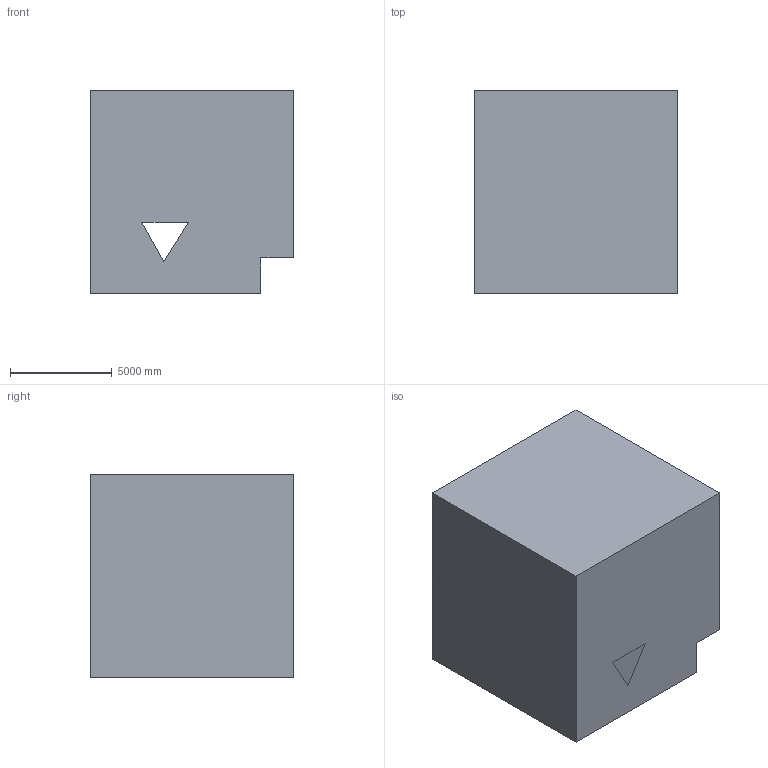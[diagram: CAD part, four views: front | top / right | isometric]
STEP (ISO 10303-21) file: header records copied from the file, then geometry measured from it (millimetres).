
FILE_DESCRIPTION (( 'STEP AP203' ), '1' );
FILE_NAME ('1136.STEP', '2022-08-18T12:54:13', ( 'user' ), ( '' ), 'SwSTEP 2.0', 'SolidWorks 2021', '' );
FILE_SCHEMA (( 'CONFIG_CONTROL_DESIGN' ));
Length unit declared in the file: centimetre
Products named in the file (1): 1136
Bounding box: 10000 x 10000 x 10000 mm (x, y, z)
Volume: 949337500823.7 mm3; surface area: 657812749.4 mm2
Topology: 1 solids, 1 shells, 11 faces, 27 edges, 18 vertices
Faces by surface type: plane 11
Entity records: 402 total; most frequent: CARTESIAN_POINT 57, ORIENTED_EDGE 54, DIRECTION 51, VECTOR 27, EDGE_CURVE 27, LINE 27, VERTEX_POINT 18, EDGE_LOOP 13
